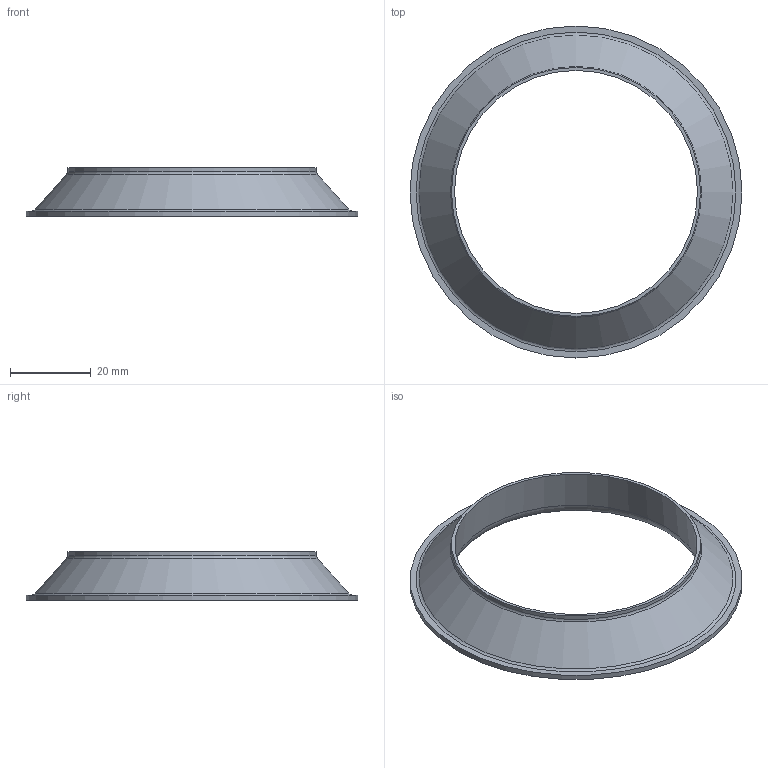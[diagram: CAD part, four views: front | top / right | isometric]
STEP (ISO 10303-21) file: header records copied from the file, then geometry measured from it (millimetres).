
FILE_DESCRIPTION( ('This file contains a STEP AP42 implementation' ,'as created by ZW3D STEP Interface translator.') ,'2;1' );
FILE_NAME( 'KM-60.stp' ,'26 511.112728', (''), ('ZWCAD Software Co.'), 'Version 1.0', 'ZW3D to STEP translator', '' );
FILE_SCHEMA(('AP242_MANAGED_MODEL_BASED_3D_ENGINEERING_MIM_LF { 1 0 10303 442 1 1 4 }'));
Length unit declared in the file: millimetre
Products named in the file (1): 0
Bounding box: 82 x 82 x 12 mm (x, y, z)
Volume: 11618.5 mm3; surface area: 8448.3 mm2
Topology: 1 solids, 1 shells, 10 faces, 17 edges, 10 vertices
Faces by surface type: plane 3, torus 3, cylinder 2, cone 2
Full cylindrical faces by diameter (mm): 61.5 x1, 82 x1
Entity records: 276 total; most frequent: DIRECTION 52, CARTESIAN_POINT 38, ORIENTED_EDGE 34, AXIS2_PLACEMENT_3D 24, EDGE_CURVE 17, CIRCLE 13, EDGE_LOOP 13, VERTEX_POINT 10
